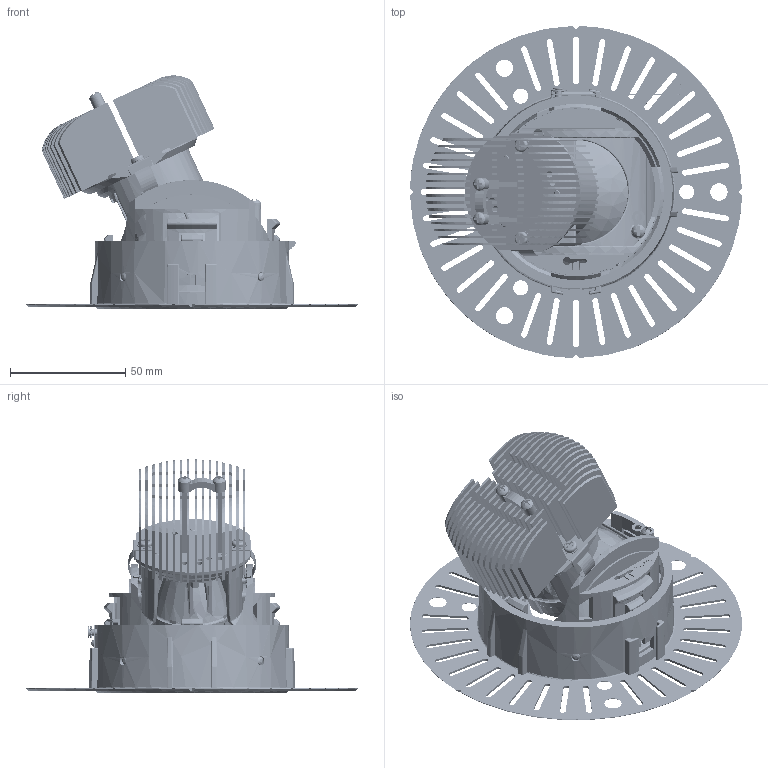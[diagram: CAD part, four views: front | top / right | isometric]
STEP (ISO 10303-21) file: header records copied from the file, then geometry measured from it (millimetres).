
FILE_DESCRIPTION(('CATIA V5 STEP Exchange'),'2;1');
FILE_NAME('C:\Users\stefano.giovinetto\Desktop\X.KP1C - M PRO Adj Round Trimless Recessed.stp','2020-10-29T10:22:02+00:00',('none'),('none'),'CATIA Version 5 Release 20 SP 7 (IN-10)','CATIA V5 STEP AP203','none');
FILE_SCHEMA(('CONFIG_CONTROL_DESIGN'));
Products named in the file (1): X.KP1CK
Bounding box: 143.97 x 143.97 x 101.15 mm (x, y, z)
Volume: 130914.3 mm3; surface area: 175264.8 mm2
Topology: 43 solids, 199 shells, 9185 faces, 26356 edges, 17568 vertices
Faces by surface type: plane 6603, cylinder 1474, bspline 306, cone 291, torus 266, extrusion 155, sphere 88, revolution 2
Entity records: 342897 total; most frequent: CARTESIAN_POINT 115589, ORIENTED_EDGE 51424, DIRECTION 38122, EDGE_CURVE 26249, VECTOR 18364, LINE 18209, VERTEX_POINT 17564, AXIS2_PLACEMENT_3D 11212
